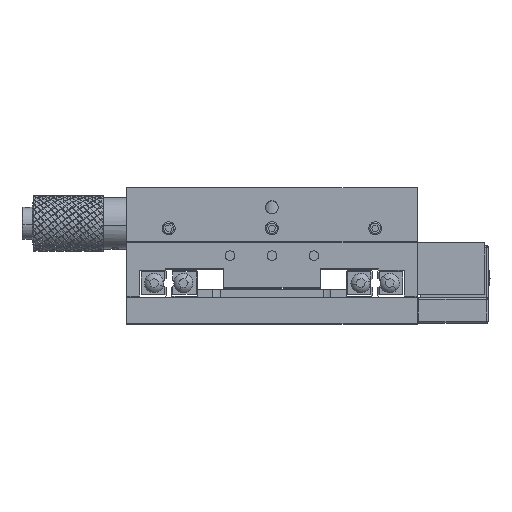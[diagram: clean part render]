
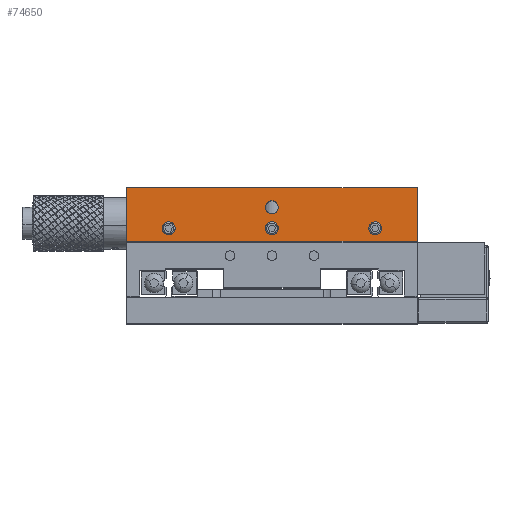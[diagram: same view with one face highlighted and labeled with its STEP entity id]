
A CAD part, top view. The second image highlights one B-rep face of the part: STEP entity #74650.
In plain terms, the highlighted planar face has unit normal (0, 0, 1).
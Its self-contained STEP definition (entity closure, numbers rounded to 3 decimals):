
#5052 = EDGE_CURVE ( 'NONE', #165141, #165080, #315907, .T. ) ;
#5187 = EDGE_CURVE ( 'NONE', #165150, #165056, #315934, .T. ) ;
#5223 = EDGE_CURVE ( 'NONE', #165108, #165103, #315969, .T. ) ;
#5230 = EDGE_CURVE ( 'NONE', #164982, #165112, #316043, .T. ) ;
#5696 = EDGE_CURVE ( 'NONE', #165418, #165453, #314344, .T. ) ;
#5726 = EDGE_CURVE ( 'NONE', #165080, #165141, #314508, .T. ) ;
#5747 = EDGE_CURVE ( 'NONE', #165103, #165108, #314541, .T. ) ;
#5776 = EDGE_CURVE ( 'NONE', #165056, #165150, #314501, .T. ) ;
#5854 = EDGE_CURVE ( 'NONE', #165112, #164982, #314655, .T. ) ;
#5858 = EDGE_CURVE ( 'NONE', #165396, #165408, #314772, .T. ) ;
#5875 = EDGE_CURVE ( 'NONE', #165396, #165418, #314721, .T. ) ;
#5882 = EDGE_CURVE ( 'NONE', #165408, #165453, #314717, .T. ) ;
#21747 = AXIS2_PLACEMENT_3D ( 'NONE', #220619, #220722, #220771 ) ;
#49132 = FACE_BOUND ( 'NONE', #165752, .T. ) ;
#49197 = FACE_OUTER_BOUND ( 'NONE', #165790, .T. ) ;
#51043 = FACE_BOUND ( 'NONE', #165763, .T. ) ;
#51191 = FACE_BOUND ( 'NONE', #163874, .T. ) ;
#51873 = FACE_BOUND ( 'NONE', #165771, .T. ) ;
#74650 = ADVANCED_FACE ( 'NONE', ( #49132, #51191, #51873, #49197, #51043 ), #220614, .F. ) ;
#100244 = CARTESIAN_POINT ( 'NONE',  ( -31.057, 17.97, 0.048 ) ) ;
#100272 = CARTESIAN_POINT ( 'NONE',  ( 4.943, 11.47, 0.048 ) ) ;
#100400 = CARTESIAN_POINT ( 'NONE',  ( -27.057, 11.47, 0.048 ) ) ;
#100436 = CARTESIAN_POINT ( 'NONE',  ( 0.943, 11.47, 0.048 ) ) ;
#100467 = CARTESIAN_POINT ( 'NONE',  ( -59.057, 11.47, 0.048 ) ) ;
#100479 = CARTESIAN_POINT ( 'NONE',  ( -63.057, 11.47, 0.048 ) ) ;
#100533 = CARTESIAN_POINT ( 'NONE',  ( -31.057, 11.47, 0.048 ) ) ;
#100544 = CARTESIAN_POINT ( 'NONE',  ( -27.057, 17.97, 0.048 ) ) ;
#104518 = CARTESIAN_POINT ( 'NONE',  ( -74.057, 23.97, 0.048 ) ) ;
#104542 = CARTESIAN_POINT ( 'NONE',  ( 15.943, 7.47, 0.048 ) ) ;
#104645 = CARTESIAN_POINT ( 'NONE',  ( 15.943, 23.97, 0.048 ) ) ;
#104883 = CARTESIAN_POINT ( 'NONE',  ( -74.057, 7.47, 0.048 ) ) ;
#137361 = ORIENTED_EDGE ( 'NONE', *, *, #5230, .F. ) ;
#137429 = ORIENTED_EDGE ( 'NONE', *, *, #5726, .F. ) ;
#137432 = ORIENTED_EDGE ( 'NONE', *, *, #5223, .F. ) ;
#137466 = ORIENTED_EDGE ( 'NONE', *, *, #5696, .F. ) ;
#141247 = ORIENTED_EDGE ( 'NONE', *, *, #5854, .F. ) ;
#141297 = ORIENTED_EDGE ( 'NONE', *, *, #5858, .T. ) ;
#141304 = ORIENTED_EDGE ( 'NONE', *, *, #5187, .F. ) ;
#141325 = ORIENTED_EDGE ( 'NONE', *, *, #5875, .F. ) ;
#141376 = ORIENTED_EDGE ( 'NONE', *, *, #5747, .F. ) ;
#141493 = ORIENTED_EDGE ( 'NONE', *, *, #5052, .F. ) ;
#141513 = ORIENTED_EDGE ( 'NONE', *, *, #5776, .F. ) ;
#141559 = ORIENTED_EDGE ( 'NONE', *, *, #5882, .T. ) ;
#163874 = EDGE_LOOP ( 'NONE', ( #141513, #141304 ) ) ;
#164982 = VERTEX_POINT ( 'NONE', #100244 ) ;
#165056 = VERTEX_POINT ( 'NONE', #100272 ) ;
#165080 = VERTEX_POINT ( 'NONE', #100400 ) ;
#165103 = VERTEX_POINT ( 'NONE', #100467 ) ;
#165108 = VERTEX_POINT ( 'NONE', #100479 ) ;
#165112 = VERTEX_POINT ( 'NONE', #100544 ) ;
#165141 = VERTEX_POINT ( 'NONE', #100533 ) ;
#165150 = VERTEX_POINT ( 'NONE', #100436 ) ;
#165396 = VERTEX_POINT ( 'NONE', #104645 ) ;
#165408 = VERTEX_POINT ( 'NONE', #104518 ) ;
#165418 = VERTEX_POINT ( 'NONE', #104542 ) ;
#165453 = VERTEX_POINT ( 'NONE', #104883 ) ;
#165752 = EDGE_LOOP ( 'NONE', ( #141247, #137361 ) ) ;
#165763 = EDGE_LOOP ( 'NONE', ( #137429, #141493 ) ) ;
#165771 = EDGE_LOOP ( 'NONE', ( #141376, #137432 ) ) ;
#165790 = EDGE_LOOP ( 'NONE', ( #141559, #137466, #141325, #141297 ) ) ;
#220614 = PLANE ( 'NONE',  #21747 ) ;
#220619 = CARTESIAN_POINT ( 'NONE',  ( 15.943, 7.47, 0.048 ) ) ;
#220722 = DIRECTION ( 'NONE',  ( 0., 0., -1. ) ) ;
#220771 = DIRECTION ( 'NONE',  ( -1., 0., 0. ) ) ;
#270068 = AXIS2_PLACEMENT_3D ( 'NONE', #322394, #322397, #322398 ) ;
#270243 = AXIS2_PLACEMENT_3D ( 'NONE', #322578, #322568, #322553 ) ;
#270256 = AXIS2_PLACEMENT_3D ( 'NONE', #321021, #321011, #321074 ) ;
#270344 = AXIS2_PLACEMENT_3D ( 'NONE', #321043, #321013, #320998 ) ;
#270739 = AXIS2_PLACEMENT_3D ( 'NONE', #322132, #305362, #303567 ) ;
#270818 = AXIS2_PLACEMENT_3D ( 'NONE', #328639, #328394, #328617 ) ;
#270872 = AXIS2_PLACEMENT_3D ( 'NONE', #328988, #329146, #329097 ) ;
#270880 = AXIS2_PLACEMENT_3D ( 'NONE', #328507, #328512, #328390 ) ;
#303567 = DIRECTION ( 'NONE',  ( 1., 0., 0. ) ) ;
#305362 = DIRECTION ( 'NONE',  ( 0., 0., 1. ) ) ;
#314344 = LINE ( 'NONE', #322292, #314351 ) ;
#314351 = VECTOR ( 'NONE', #322280, 1000. ) ;
#314501 = CIRCLE ( 'NONE', #270880, 2. ) ;
#314508 = CIRCLE ( 'NONE', #270739, 2. ) ;
#314541 = CIRCLE ( 'NONE', #270818, 2. ) ;
#314655 = CIRCLE ( 'NONE', #270872, 2. ) ;
#314658 = VECTOR ( 'NONE', #328953, 1000. ) ;
#314713 = VECTOR ( 'NONE', #329154, 1000. ) ;
#314717 = LINE ( 'NONE', #329169, #314736 ) ;
#314721 = LINE ( 'NONE', #329150, #314658 ) ;
#314736 = VECTOR ( 'NONE', #329048, 1000. ) ;
#314772 = LINE ( 'NONE', #328842, #314713 ) ;
#315907 = CIRCLE ( 'NONE', #270068, 2. ) ;
#315934 = CIRCLE ( 'NONE', #270243, 2. ) ;
#315969 = CIRCLE ( 'NONE', #270256, 2. ) ;
#316043 = CIRCLE ( 'NONE', #270344, 2. ) ;
#320998 = DIRECTION ( 'NONE',  ( 1., 0., 0. ) ) ;
#321011 = DIRECTION ( 'NONE',  ( 0., 0., 1. ) ) ;
#321013 = DIRECTION ( 'NONE',  ( 0., 0., 1. ) ) ;
#321021 = CARTESIAN_POINT ( 'NONE',  ( -61.057, 11.47, 0.048 ) ) ;
#321043 = CARTESIAN_POINT ( 'NONE',  ( -29.057, 17.97, 0.048 ) ) ;
#321074 = DIRECTION ( 'NONE',  ( 1., 0., 0. ) ) ;
#322132 = CARTESIAN_POINT ( 'NONE',  ( -29.057, 11.47, 0.048 ) ) ;
#322280 = DIRECTION ( 'NONE',  ( -1., 0., 0. ) ) ;
#322292 = CARTESIAN_POINT ( 'NONE',  ( 15.943, 7.47, 0.048 ) ) ;
#322394 = CARTESIAN_POINT ( 'NONE',  ( -29.057, 11.47, 0.048 ) ) ;
#322397 = DIRECTION ( 'NONE',  ( 0., 0., 1. ) ) ;
#322398 = DIRECTION ( 'NONE',  ( 1., 0., 0. ) ) ;
#322553 = DIRECTION ( 'NONE',  ( 1., 0., 0. ) ) ;
#322568 = DIRECTION ( 'NONE',  ( 0., 0., 1. ) ) ;
#322578 = CARTESIAN_POINT ( 'NONE',  ( 2.943, 11.47, 0.048 ) ) ;
#328390 = DIRECTION ( 'NONE',  ( 1., 0., 0. ) ) ;
#328394 = DIRECTION ( 'NONE',  ( 0., 0., 1. ) ) ;
#328507 = CARTESIAN_POINT ( 'NONE',  ( 2.943, 11.47, 0.048 ) ) ;
#328512 = DIRECTION ( 'NONE',  ( 0., 0., 1. ) ) ;
#328617 = DIRECTION ( 'NONE',  ( 1., 0., 0. ) ) ;
#328639 = CARTESIAN_POINT ( 'NONE',  ( -61.057, 11.47, 0.048 ) ) ;
#328842 = CARTESIAN_POINT ( 'NONE',  ( 15.943, 23.97, 0.048 ) ) ;
#328953 = DIRECTION ( 'NONE',  ( 0., -1., 0. ) ) ;
#328988 = CARTESIAN_POINT ( 'NONE',  ( -29.057, 17.97, 0.048 ) ) ;
#329048 = DIRECTION ( 'NONE',  ( 0., -1., 0. ) ) ;
#329097 = DIRECTION ( 'NONE',  ( 1., 0., 0. ) ) ;
#329146 = DIRECTION ( 'NONE',  ( 0., 0., 1. ) ) ;
#329150 = CARTESIAN_POINT ( 'NONE',  ( 15.943, 7.47, 0.048 ) ) ;
#329154 = DIRECTION ( 'NONE',  ( -1., 0., 0. ) ) ;
#329169 = CARTESIAN_POINT ( 'NONE',  ( -74.057, 7.47, 0.048 ) ) ;
